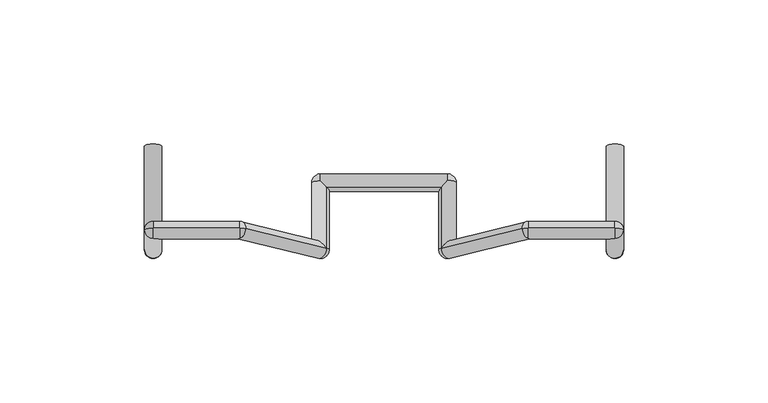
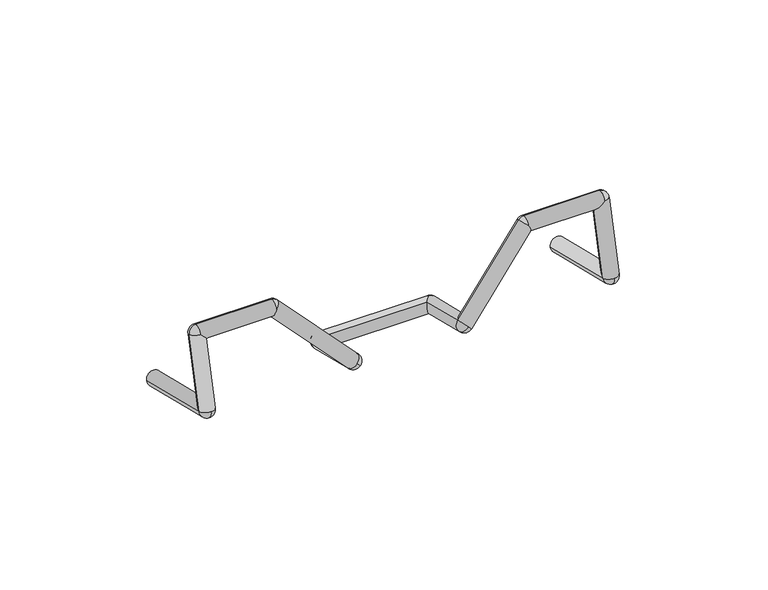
"""IFC4 building model written with IfcOpenShell, lengths in millimetres: furniture geometry, BK Library - Mag-Mag - 1440 - 1 Collum : BK Library - Mag-Mag - 1440 - 1 Collum."""

from ifc_helpers import new_model, si_unit, point, frame, origin, place, context, project, spatial, circle_curve, ellipse_curve, trimmed, source, transform, mapped, element, save
from ifc_brep_helpers import plane_surface, cylinder_surface, revolved_surface, advanced_brep


def furniture_b15f5bc2(model_context):
    return source(origin(), model_context, "Body", "AdvancedBrep", [
        advanced_brep(
        [(-79.9995394, -261.9406341, 782.0660528), (-79.9995394, -264.144767, 785.6912146), (-82.9995394, -261.2301197, 784.9807002), (-82.9995394, -254.3618134, 813.1556247), (-79.9995394, -253.651299, 816.070272), (-79.9995394, -251.4471661, 812.4451102), (-50.0045138, -253.651299, 816.070272), (-47.8464944, -253.8682486, 815.1803088), (-50.0045138, -251.4471661, 812.4451102), (-21.9995394, -264.144767, 785.6912146), (-19.9155642, -261.741221, 782.8840783), (-19.84152, -260.7365549, 787.0053844), (-24.9995394, -237.9129408, 779.2965847), (-21.9995394, -234.9982934, 778.5860702), (-21.9995394, -236.3098837, 776.7607992), (-21.9995394, -238.6234552, 776.3819373), (-24.1575588, -238.4065056, 777.2719005), (22.0004606, -234.9982934, 778.5860702), (25.0004606, -237.9129408, 779.2965847), (24.15848, -238.4065056, 777.2719005), (22.0004606, -238.6234552, 776.3819373), (22.0004606, -236.3098837, 776.7607992), (19.9164855, -261.741221, 782.8840783), (22.0004606, -264.144767, 785.6912146), (19.8424412, -260.7365549, 787.0053844), (47.8474157, -253.8682486, 815.1803088), (50.0054351, -253.651299, 816.070272), (50.0054351, -251.4471661, 812.4451102), (80.0004606, -253.651299, 816.070272), (83.0004606, -254.3618134, 813.1556247), (80.0004606, -251.4471661, 812.4451102), (80.0004606, -264.144767, 785.6912146), (80.0004606, -261.9406341, 782.0660528), (83.0004606, -261.2301197, 784.9807002), (-82.9995394, -225.2828022, 776.2176888), (-76.9995394, -225.2828022, 776.2176888), (-76.9995394, -261.2301197, 784.9807002), (-76.9995394, -255.0723279, 810.2409773), (-79.9995394, -257.2764608, 813.8661391), (-51.2779383, -255.0723279, 810.2409773), (-50.0045138, -257.2764608, 813.8661391), (-24.1575588, -261.7236845, 782.956016), (-19.84152, -239.5159978, 781.8323702), (19.8424412, -239.5159978, 781.8323702), (24.15848, -261.7236845, 782.956016), (51.2788596, -255.0723279, 810.2409773), (50.0054351, -257.2764608, 813.8661391), (77.0004606, -255.0723279, 810.2409773), (80.0004606, -257.2764608, 813.8661391), (77.0004606, -261.2301197, 784.9807002), (83.0004606, -225.2828022, 776.2176888), (77.0004606, -225.2828022, 776.2176888), (22.0004606, -237.2024264, 782.211232), (-21.9995394, -237.2024264, 782.211232)],
        [
            (0, 1, circle_curve(frame((-79.9995394, -261.2301197, 784.9807002), z_axis=(-1.0, 0.0, 0.0), x_axis=(0.0, 0.23683814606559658, 0.9715491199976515)), 3.0)),
            (1, 2, circle_curve(frame((-79.9995394, -261.2301197, 784.9807002), z_axis=(0.0, -0.23683814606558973, -0.9715491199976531), x_axis=(0.0, -0.9715491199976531, 0.23683814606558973)), 3.0)),
            (2, 0, circle_curve(frame((-79.9995394, -261.2301197, 784.9807002), z_axis=(0.0, -0.9715491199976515, 0.2368381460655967), x_axis=(0.0, -0.2368381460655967, -0.9715491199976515)), 3.0)),
            (3, 4, circle_curve(frame((-79.9995394, -254.3618134, 813.1556247), z_axis=(0.0, 0.971549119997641, -0.23683814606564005), x_axis=(1.0, 0.0, 0.0)), 3.0)),
            (4, 5, circle_curve(frame((-79.9995394, -254.3618134, 813.1556247), z_axis=(-1.0, 0.0, 0.0), x_axis=(0.0, 0.23683814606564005, 0.971549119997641)), 3.0)),
            (5, 3, circle_curve(frame((-79.9995394, -254.3618134, 813.1556247), z_axis=(0.0, 0.23683814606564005, 0.971549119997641), x_axis=(-1.0, 0.0, 0.0)), 3.0)),
            (6, 7, circle_curve(frame((-50.0045138, -254.3618134, 813.1556247), z_axis=(0.0, 0.971549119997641, -0.23683814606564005), x_axis=(0.0, -0.23683814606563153, -0.971549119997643)), 3.0)),
            (7, 8, circle_curve(frame((-50.0045138, -254.3618134, 813.1556247), z_axis=(-0.6946583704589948, 0.17036710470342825, 0.6988739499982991), x_axis=(0.7193398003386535, 0.16452160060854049, 0.6748947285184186)), 3.0)),
            (8, 6, circle_curve(frame((-50.0045138, -254.3618134, 813.1556247), z_axis=(1.0, 0.0, 0.0), x_axis=(0.0, 0.23683814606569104, 0.9715491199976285)), 3.0)),
            (9, 10, circle_curve(frame((-21.9995394, -261.2301197, 784.9807002), z_axis=(0.7193398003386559, 0.16452160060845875, 0.6748947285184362), x_axis=(0.0, 0.971549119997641, -0.23683814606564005)), 3.0)),
            (10, 11, circle_curve(frame((-21.9995394, -261.2301197, 784.9807002), z_axis=(0.0, -0.9715491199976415, 0.2368381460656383), x_axis=(0.6946583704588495, -0.17036710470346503, -0.6988739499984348)), 3.0)),
            (11, 9, circle_curve(frame((-21.9995394, -261.2301197, 784.9807002), z_axis=(0.6946583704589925, -0.17036710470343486, -0.6988739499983), x_axis=(0.0, -0.9715491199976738, 0.2368381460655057)), 3.0)),
            (12, 13, circle_curve(frame((-21.9995394, -237.9129408, 779.2965847), z_axis=(0.0, -0.23683814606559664, -0.9715491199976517), x_axis=(-1.0, 0.0, 0.0)), 3.0)),
            (13, 14, circle_curve(frame((-21.9995394, -237.9129408, 779.2965847), z_axis=(-1.0, 0.0, 0.0), x_axis=(0.0, 0.9715491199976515, -0.23683814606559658)), 3.0)),
            (14, 15, circle_curve(frame((-21.9995394, -237.9129408, 779.2965847), z_axis=(-1.0, 0.0, 0.0), x_axis=(0.0, 0.9715491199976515, -0.23683814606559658)), 3.0)),
            (15, 16, circle_curve(frame((-21.9995394, -237.9129408, 779.2965847), z_axis=(0.0, 0.9715491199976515, -0.23683814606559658), x_axis=(-1.0, 0.0, 0.0)), 3.0)),
            (16, 12, circle_curve(frame((-21.9995394, -237.9129408, 779.2965847), z_axis=(0.0, 0.9715491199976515, -0.23683814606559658), x_axis=(-1.0, 0.0, 0.0)), 3.0)),
            (17, 18, circle_curve(frame((22.0004606, -237.9129408, 779.2965847), z_axis=(0.0, -0.23683814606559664, -0.9715491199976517), x_axis=(0.0, -0.971549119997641, 0.23683814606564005)), 3.0)),
            (18, 19, circle_curve(frame((22.0004606, -237.9129408, 779.2965847), z_axis=(0.0, 0.971549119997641, -0.23683814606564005), x_axis=(1.0, 0.0, 0.0)), 3.0)),
            (19, 20, circle_curve(frame((22.0004606, -237.9129408, 779.2965847), z_axis=(0.0, 0.971549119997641, -0.23683814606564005), x_axis=(1.0, 0.0, 0.0)), 3.0)),
            (20, 21, circle_curve(frame((22.0004606, -237.9129408, 779.2965847), z_axis=(1.0, 0.0, 0.0), x_axis=(0.0, 0.9715491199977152, -0.23683814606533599)), 3.0)),
            (21, 17, circle_curve(frame((22.0004606, -237.9129408, 779.2965847), z_axis=(1.0, 0.0, 0.0), x_axis=(0.0, 0.9715491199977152, -0.23683814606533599)), 3.0)),
            (22, 23, circle_curve(frame((22.0004606, -261.2301197, 784.9807002), z_axis=(-0.7193398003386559, 0.16452160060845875, 0.6748947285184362), x_axis=(-0.6946583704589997, -0.17036710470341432, -0.6988739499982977)), 3.0)),
            (23, 24, circle_curve(frame((22.0004606, -261.2301197, 784.9807002), z_axis=(-0.6946583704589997, -0.17036710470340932, -0.6988739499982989), x_axis=(0.0, -0.9715491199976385, 0.23683814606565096)), 3.0)),
            (24, 22, circle_curve(frame((22.0004606, -261.2301197, 784.9807002), z_axis=(-3.5409316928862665e-11, -0.9715491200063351, 0.23683814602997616), x_axis=(-0.6946583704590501, -0.1703671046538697, -0.6988739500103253)), 3.0)),
            (25, 26, circle_curve(frame((50.0054351, -254.3618134, 813.1556247), z_axis=(0.0, 0.971549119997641, -0.23683814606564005), x_axis=(-0.7193398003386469, 0.16452160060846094, 0.6748947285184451)), 3.0)),
            (26, 27, circle_curve(frame((50.0054351, -254.3618134, 813.1556247), z_axis=(-1.0, 0.0, 0.0), x_axis=(0.0, 0.2368381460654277, 0.9715491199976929)), 3.0)),
            (27, 25, circle_curve(frame((50.0054351, -254.3618134, 813.1556247), z_axis=(0.6946583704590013, 0.17036710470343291, 0.6988739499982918), x_axis=(-0.7193398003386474, 0.16452160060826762, 0.6748947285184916)), 3.0)),
            (28, 29, circle_curve(frame((80.0004606, -254.3618134, 813.1556247), z_axis=(0.0, 0.971549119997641, -0.23683814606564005), x_axis=(0.0, 0.23683814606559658, 0.9715491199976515)), 3.0)),
            (29, 30, circle_curve(frame((80.0004606, -254.3618134, 813.1556247), z_axis=(0.0, 0.23683814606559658, 0.9715491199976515), x_axis=(1.0, 0.0, 0.0)), 3.0)),
            (30, 28, circle_curve(frame((80.0004606, -254.3618134, 813.1556247), z_axis=(1.0, 0.0, -2.6767436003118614e-12), x_axis=(2.7551294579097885e-12, 0.23683814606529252, 0.9715491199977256)), 3.0)),
            (31, 32, circle_curve(frame((80.0004606, -261.2301197, 784.9807002), z_axis=(1.0, 0.0, 0.0), x_axis=(0.0, -0.971549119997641, 0.23683814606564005)), 3.0)),
            (32, 33, circle_curve(frame((80.0004606, -261.2301197, 784.9807002), z_axis=(0.0, -0.9715491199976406, 0.23683814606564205), x_axis=(0.0, -0.23683814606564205, -0.9715491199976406)), 3.0)),
            (33, 31, circle_curve(frame((80.0004606, -261.2301197, 784.9807002), z_axis=(0.0, -0.2368381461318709, -0.9715491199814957), x_axis=(0.0, -0.9715491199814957, 0.2368381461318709)), 3.0)),
            (2, 34),
            (34, 35, circle_curve(frame((-79.9995394, -225.2828022, 776.2176888), z_axis=(0.0, -0.9715491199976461, 0.23683814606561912), x_axis=(-1.0, 0.0, 0.0)), 3.0)),
            (35, 36),
            (36, 0, circle_curve(frame((-79.9995394, -261.2301197, 784.9807002), z_axis=(0.0, 0.9715491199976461, -0.23683814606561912), x_axis=(-1.0, 0.0, 0.0)), 3.0)),
            (3, 2),
            (1, 36, circle_curve(frame((-79.9995394, -261.2301197, 784.9807002), z_axis=(0.0, 0.23683814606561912, 0.9715491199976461), x_axis=(-1.0, 0.0, 0.0)), 3.0)),
            (36, 37),
            (37, 38, ellipse_curve(frame((-79.9995394, -254.3618134, 813.1556247), z_axis=(-0.7071067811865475, -0.1674698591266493, -0.6869889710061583), x_axis=(0.7071067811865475, -0.1674698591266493, -0.6869889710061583)), 4.2426407, 3.0)),
            (38, 3, circle_curve(frame((-79.9995394, -254.3618134, 813.1556247), z_axis=(0.0, -0.23683814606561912, -0.9715491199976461), x_axis=(-1.0, 0.0, 0.0)), 3.0)),
            (6, 4),
            (4, 38, circle_curve(frame((-79.9995394, -254.3618134, 813.1556247), z_axis=(1.0, 0.0, 0.0), x_axis=(0.0, 0.23683814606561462, 0.9715491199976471)), 3.0)),
            (37, 39),
            (39, 40, ellipse_curve(frame((-50.0045138, -254.3618134, 813.1556247), z_axis=(-0.9205048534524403, 0.09254003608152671, 0.37961448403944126), x_axis=(-0.3907311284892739, -0.21801066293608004, -0.8943156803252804)), 3.2590811, 3.0)),
            (40, 6, circle_curve(frame((-50.0045138, -254.3618134, 813.1556247), z_axis=(-1.0, 0.0, 0.0), x_axis=(0.0, 0.23683814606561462, 0.9715491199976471)), 3.0)),
            (11, 7),
            (7, 40, circle_curve(frame((-50.0045138, -254.3618134, 813.1556247), z_axis=(0.694658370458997, -0.17036710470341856, -0.6988739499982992), x_axis=(0.7193398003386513, 0.16452160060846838, 0.6748947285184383)), 3.0)),
            (39, 41),
            (41, 9, circle_curve(frame((-21.9995394, -261.2301197, 784.9807002), z_axis=(-0.694658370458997, 0.17036710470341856, 0.6988739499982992), x_axis=(0.7193398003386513, 0.16452160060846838, 0.6748947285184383)), 3.0)),
            (42, 11),
            (10, 41, circle_curve(frame((-21.9995394, -261.2301197, 784.9807002), z_axis=(0.0, 0.9715491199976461, -0.23683814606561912), x_axis=(0.719339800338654, 0.16452160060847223, 0.6748947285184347)), 3.0)),
            (41, 16),
            (15, 42, ellipse_curve(frame((-21.9995394, -237.9129408, 779.2965847), z_axis=(-0.7071067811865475, -0.6869889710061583, 0.1674698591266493), x_axis=(0.7071067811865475, -0.6869889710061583, 0.1674698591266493)), 4.2426407, 3.0)),
            (43, 42),
            (14, 21),
            (20, 43, ellipse_curve(frame((22.0004606, -237.9129408, 779.2965847), z_axis=(-0.7071067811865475, 0.6869889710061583, -0.16746985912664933), x_axis=(-0.7071067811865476, -0.6869889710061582, 0.1674698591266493)), 4.2426407, 3.0)),
            (24, 43),
            (19, 44),
            (44, 22, circle_curve(frame((22.0004606, -261.2301197, 784.9807002), z_axis=(0.0, 0.9715491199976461, -0.23683814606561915), x_axis=(-0.7193398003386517, 0.16452160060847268, 0.6748947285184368)), 3.0)),
            (25, 24),
            (23, 44, circle_curve(frame((22.0004606, -261.2301197, 784.9807002), z_axis=(0.6946583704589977, 0.17036710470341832, 0.6988739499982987), x_axis=(-0.7193398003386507, 0.16452160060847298, 0.674894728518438)), 3.0)),
            (44, 45),
            (45, 46, ellipse_curve(frame((50.0054351, -254.3618134, 813.1556247), z_axis=(-0.9205048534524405, -0.09254003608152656, -0.37961448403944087), x_axis=(0.3907311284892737, -0.21801066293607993, -0.8943156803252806)), 3.2590811, 3.0)),
            (46, 25, circle_curve(frame((50.0054351, -254.3618134, 813.1556247), z_axis=(-0.6946583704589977, -0.17036710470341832, -0.6988739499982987), x_axis=(-0.7193398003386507, 0.16452160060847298, 0.674894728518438)), 3.0)),
            (28, 26),
            (26, 46, circle_curve(frame((50.0054351, -254.3618134, 813.1556247), z_axis=(1.0, 0.0, 0.0), x_axis=(0.0, 0.236838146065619, 0.9715491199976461)), 3.0)),
            (45, 47),
            (47, 48, ellipse_curve(frame((80.0004606, -254.3618134, 813.1556247), z_axis=(-0.7071067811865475, 0.1674698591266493, 0.6869889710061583), x_axis=(-0.7071067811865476, -0.16746985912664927, -0.6869889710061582)), 4.2426407, 3.0)),
            (48, 28, circle_curve(frame((80.0004606, -254.3618134, 813.1556247), z_axis=(-1.0, 0.0, 0.0), x_axis=(0.0, 0.236838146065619, 0.9715491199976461)), 3.0)),
            (33, 29),
            (29, 48, circle_curve(frame((80.0004606, -254.3618134, 813.1556247), z_axis=(0.0, -0.23683814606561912, -0.9715491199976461), x_axis=(1.0, 0.0, 0.0)), 3.0)),
            (47, 49),
            (49, 31, circle_curve(frame((80.0004606, -261.2301197, 784.9807002), z_axis=(0.0, 0.23683814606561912, 0.9715491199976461), x_axis=(1.0, 0.0, 0.0)), 3.0)),
            (50, 33),
            (32, 49, circle_curve(frame((80.0004606, -261.2301197, 784.9807002), z_axis=(0.0, 0.9715491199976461, -0.23683814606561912), x_axis=(1.0, 0.0, 0.0)), 3.0)),
            (49, 51),
            (51, 50, circle_curve(frame((80.0004606, -225.2828022, 776.2176888), z_axis=(0.0, -0.9715491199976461, 0.23683814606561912), x_axis=(1.0, 0.0, 0.0)), 3.0)),
            (51, 50, circle_curve(frame((80.0004606, -225.2828022, 776.2176888), z_axis=(0.0, 0.9715491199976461, -0.23683814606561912), x_axis=(1.0, 0.0, 0.0)), 3.0)),
            (49, 33, ellipse_curve(frame((80.0004606, -261.2301197, 784.9807002), z_axis=(0.0, 0.5195191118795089, -0.8544588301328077), x_axis=(0.0, -0.8544588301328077, -0.5195191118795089)), 4.2426407, 3.0)),
            (47, 30, ellipse_curve(frame((80.0004606, -254.3618134, 813.1556247), z_axis=(0.7071067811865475, -0.1674698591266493, -0.6869889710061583), x_axis=(0.7071067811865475, 0.1674698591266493, 0.6869889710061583)), 4.2426407, 3.0)),
            (45, 27, ellipse_curve(frame((50.0054351, -254.3618134, 813.1556247), z_axis=(0.9205048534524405, 0.09254003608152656, 0.37961448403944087), x_axis=(-0.39073112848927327, 0.21801066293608, 0.894315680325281)), 3.2590811, 3.0)),
            (44, 24, ellipse_curve(frame((22.0004606, -261.2301197, 784.9807002), z_axis=(0.49119764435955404, -0.5665212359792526, 0.6616483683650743), x_axis=(-0.4911976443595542, -0.8074567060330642, -0.3267086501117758)), 4.2426407, 3.0)),
            (18, 52, circle_curve(frame((22.0004606, -237.9129408, 779.2965847), z_axis=(0.0, -0.9715491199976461, 0.23683814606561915), x_axis=(-0.7193398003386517, 0.16452160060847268, 0.6748947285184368)), 3.0)),
            (52, 43, ellipse_curve(frame((22.0004606, -237.9129408, 779.2965847), z_axis=(0.7071067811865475, -0.6869889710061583, 0.16746985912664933), x_axis=(0.7071067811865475, 0.6869889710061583, -0.16746985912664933)), 4.2426407, 3.0)),
            (17, 52, circle_curve(frame((22.0004606, -237.9129408, 779.2965847), z_axis=(1.0, 0.0, 0.0), x_axis=(0.0, 0.9715491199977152, -0.23683814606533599)), 3.0)),
            (13, 53, circle_curve(frame((-21.9995394, -237.9129408, 779.2965847), z_axis=(1.0, 0.0, 0.0), x_axis=(0.0, -0.534352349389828, 0.8452618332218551)), 3.0)),
            (53, 42, ellipse_curve(frame((-21.9995394, -237.9129408, 779.2965847), z_axis=(0.7071067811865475, 0.6869889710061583, -0.1674698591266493), x_axis=(-0.7071067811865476, 0.6869889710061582, -0.16746985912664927)), 4.2426407, 3.0)),
            (12, 53, circle_curve(frame((-21.9995394, -237.9129408, 779.2965847), z_axis=(0.0, 0.9715491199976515, -0.23683814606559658), x_axis=(-1.0, 0.0, 0.0)), 3.0)),
            (41, 11, ellipse_curve(frame((-21.9995394, -261.2301197, 784.9807002), z_axis=(0.49119764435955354, 0.5665212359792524, -0.6616483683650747), x_axis=(0.4911976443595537, -0.8074567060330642, -0.32670865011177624)), 4.2426407, 3.0)),
            (39, 8, ellipse_curve(frame((-50.0045138, -254.3618134, 813.1556247), z_axis=(0.9205048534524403, -0.09254003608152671, -0.37961448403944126), x_axis=(0.3907311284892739, 0.21801066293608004, 0.8943156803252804)), 3.2590811, 3.0)),
            (37, 5, ellipse_curve(frame((-79.9995394, -254.3618134, 813.1556247), z_axis=(0.7071067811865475, 0.1674698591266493, 0.6869889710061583), x_axis=(-0.7071067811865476, 0.16746985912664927, 0.6869889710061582)), 4.2426407, 3.0)),
            (36, 2, ellipse_curve(frame((-79.9995394, -261.2301197, 784.9807002), z_axis=(0.0, -0.5195191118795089, 0.8544588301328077), x_axis=(0.0, -0.8544588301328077, -0.5195191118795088)), 4.2426407, 3.0)),
            (35, 34, circle_curve(frame((-79.9995394, -225.2828022, 776.2176888), z_axis=(0.0, -0.9715491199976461, 0.23683814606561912), x_axis=(-1.0, 0.0, 0.0)), 3.0)),
        ],
        [
            revolved_surface(trimmed(ellipse_curve(frame((-79.9995394, -261.2301197, 784.9807002), z_axis=(0.0, -0.9715491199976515, 0.23683814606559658), x_axis=(0.0, 0.23683814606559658, 0.9715491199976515)), 3.0, 3.0), [point((-79.9995394, -260.5196052, 787.8953475))], [point((-82.9995394, -261.2301197, 784.9807002))], True, "CARTESIAN"), (-79.9995394, -261.2301197, 784.9807002), (-1.0, 0.0, 0.0)),
            revolved_surface(trimmed(ellipse_curve(frame((-79.9995394, -254.3618134, 813.1556247), z_axis=(0.0, 0.23683814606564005, 0.971549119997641), x_axis=(1.0, 0.0, 0.0)), 3.0, 3.0), [point((-76.9995394, -254.3618134, 813.1556247))], [point((-79.9995394, -251.4471661, 812.4451102))], True, "CARTESIAN"), (-79.9995394, -254.3618134, 813.1556247), (0.0, 0.971549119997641, -0.23683814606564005)),
            revolved_surface(trimmed(ellipse_curve(frame((-50.0045138, -254.3618134, 813.1556247), z_axis=(1.0, 0.0, 0.0), x_axis=(0.0, -0.23683814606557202, -0.9715491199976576)), 3.0, 3.0), [point((-50.0045138, -255.0723279, 810.2409773))], [point((-50.0045138, -251.4471661, 812.4451102))], True, "CARTESIAN"), (-50.0045138, -254.3618134, 813.1556247), (0.0, 0.971549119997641, -0.23683814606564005)),
            revolved_surface(trimmed(ellipse_curve(frame((-21.9995394, -261.2301197, 784.9807002), z_axis=(0.6946583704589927, -0.1703671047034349, -0.6988739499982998), x_axis=(0.0, 0.9715491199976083, -0.23683814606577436)), 3.0, 3.0), [point((-21.9995394, -258.3154723, 784.2701857))], [point((-19.84152, -260.7365549, 787.0053844))], True, "CARTESIAN"), (-21.9995394, -261.2301197, 784.9807002), (0.7193398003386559, 0.16452160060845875, 0.6748947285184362)),
            revolved_surface(trimmed(ellipse_curve(frame((-21.9995394, -237.9129408, 779.2965847), z_axis=(0.0, -0.9715491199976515, 0.23683814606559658), x_axis=(-1.0, 0.0, 0.0)), 3.0, 3.0), [point((-24.9995394, -237.9129408, 779.2965847))], [point((-21.9995394, -238.6234552, 776.3819373))], True, "CARTESIAN"), (-21.9995394, -237.9129408, 779.2965847), (0.0, -0.23683814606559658, -0.9715491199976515)),
            revolved_surface(trimmed(ellipse_curve(frame((22.0004606, -237.9129408, 779.2965847), z_axis=(1.0, 0.0, 0.0), x_axis=(0.0, -0.9715491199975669, 0.2368381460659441)), 3.0, 3.0), [point((22.0004606, -240.8275882, 780.0070991))], [point((22.0004606, -238.6234552, 776.3819373))], True, "CARTESIAN"), (22.0004606, -237.9129408, 779.2965847), (0.0, -0.23683814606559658, -0.9715491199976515)),
            revolved_surface(trimmed(ellipse_curve(frame((22.0004606, -261.2301197, 784.9807002), z_axis=(0.0, 0.9715491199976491, -0.23683814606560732), x_axis=(-0.6946583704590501, -0.17036710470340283, -0.6988739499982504)), 3.0, 3.0), [point((19.9164855, -261.741221, 782.8840783))], [point((19.8424412, -260.7365549, 787.0053844))], True, "CARTESIAN"), (22.0004606, -261.2301197, 784.9807002), (-0.7193398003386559, 0.16452160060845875, 0.6748947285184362)),
            revolved_surface(trimmed(ellipse_curve(frame((50.0054351, -254.3618134, 813.1556247), z_axis=(-0.6946583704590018, -0.17036710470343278, -0.6988739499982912), x_axis=(-0.7193398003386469, 0.16452160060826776, 0.6748947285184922)), 3.0, 3.0), [point((47.8474157, -253.8682486, 815.1803088))], [point((50.0054351, -251.4471661, 812.4451102))], True, "CARTESIAN"), (50.0054351, -254.3618134, 813.1556247), (0.0, 0.971549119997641, -0.23683814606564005)),
            revolved_surface(trimmed(ellipse_curve(frame((80.0004606, -254.3618134, 813.1556247), z_axis=(-1.0, 0.0, 0.0), x_axis=(0.0, 0.23683814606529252, 0.9715491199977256)), 3.0, 3.0), [point((80.0004606, -253.651299, 816.070272))], [point((80.0004606, -251.4471661, 812.4451102))], True, "CARTESIAN"), (80.0004606, -254.3618134, 813.1556247), (0.0, 0.971549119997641, -0.23683814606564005)),
            revolved_surface(trimmed(ellipse_curve(frame((80.0004606, -261.2301197, 784.9807002), z_axis=(0.0, 0.23683814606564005, 0.971549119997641), x_axis=(0.0, -0.971549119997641, 0.23683814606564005)), 3.0, 3.0), [point((80.0004606, -264.144767, 785.6912146))], [point((83.0004606, -261.2301197, 784.9807002))], True, "CARTESIAN"), (80.0004606, -261.2301197, 784.9807002), (1.0, 0.0, 0.0)),
            cylinder_surface(frame((-79.9995394, -225.2828022, 776.2176888), z_axis=(0.0, 0.9715491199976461, -0.23683814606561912), x_axis=(-1.0, 0.0, 0.0)), 3.0),
            cylinder_surface(frame((-79.9995394, -261.2301197, 784.9807002), z_axis=(0.0, -0.23683814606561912, -0.9715491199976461), x_axis=(-1.0, 0.0, 0.0)), 3.0),
            cylinder_surface(frame((-79.9995394, -254.3618134, 813.1556247), z_axis=(-1.0, 0.0, 0.0), x_axis=(0.0, 0.23683814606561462, 0.9715491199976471)), 3.0),
            cylinder_surface(frame((-50.0045138, -254.3618134, 813.1556247), z_axis=(-0.694658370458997, 0.17036710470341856, 0.6988739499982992), x_axis=(0.7193398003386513, 0.16452160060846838, 0.6748947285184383)), 3.0),
            cylinder_surface(frame((-21.9995394, -261.2301197, 784.9807002), z_axis=(0.0, -0.9715491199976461, 0.23683814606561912), x_axis=(0.719339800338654, 0.16452160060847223, 0.6748947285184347)), 3.0),
            cylinder_surface(frame((-21.9995394, -237.9129408, 779.2965847), z_axis=(-1.0, 0.0, 0.0), x_axis=(0.0, -0.534352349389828, 0.8452618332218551)), 3.0),
            cylinder_surface(frame((22.0004606, -237.9129408, 779.2965847), z_axis=(0.0, 0.9715491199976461, -0.23683814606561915), x_axis=(-0.7193398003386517, 0.16452160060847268, 0.6748947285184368)), 3.0),
            cylinder_surface(frame((22.0004606, -261.2301197, 784.9807002), z_axis=(-0.6946583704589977, -0.17036710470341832, -0.6988739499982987), x_axis=(-0.7193398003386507, 0.16452160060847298, 0.674894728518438)), 3.0),
            cylinder_surface(frame((50.0054351, -254.3618134, 813.1556247), z_axis=(-1.0, 0.0, 0.0), x_axis=(0.0, 0.236838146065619, 0.9715491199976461)), 3.0),
            cylinder_surface(frame((80.0004606, -254.3618134, 813.1556247), z_axis=(0.0, 0.23683814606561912, 0.9715491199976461), x_axis=(1.0, 0.0, 0.0)), 3.0),
            cylinder_surface(frame((80.0004606, -261.2301197, 784.9807002), z_axis=(0.0, -0.9715491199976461, 0.23683814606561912), x_axis=(1.0, 0.0, 0.0)), 3.0),
            plane_surface(frame((80.0004606, -225.2828022, 776.2176888), z_axis=(0.0, 0.9715491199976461, -0.23683814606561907), x_axis=(0.0, 0.23683814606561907, 0.9715491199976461))),
            revolved_surface(trimmed(ellipse_curve(frame((80.0004606, -261.2301197, 784.9807002), z_axis=(0.0, 0.23683814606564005, 0.971549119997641), x_axis=(0.0, -0.971549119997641, 0.23683814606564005)), 3.0, 3.0), [point((77.0004606, -261.2301197, 784.9807002))], [point((80.0004606, -264.144767, 785.6912146))], True, "CARTESIAN"), (80.0004606, -261.2301197, 784.9807002), (1.0, 0.0, 0.0)),
            revolved_surface(trimmed(ellipse_curve(frame((80.0004606, -254.3618134, 813.1556247), z_axis=(-1.0, 0.0, 0.0), x_axis=(0.0, 0.23683814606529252, 0.9715491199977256)), 3.0, 3.0), [point((80.0004606, -257.2764608, 813.8661391))], [point((80.0004606, -253.651299, 816.070272))], True, "CARTESIAN"), (80.0004606, -254.3618134, 813.1556247), (0.0, 0.971549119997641, -0.23683814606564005)),
            revolved_surface(trimmed(ellipse_curve(frame((50.0054351, -254.3618134, 813.1556247), z_axis=(-0.6946583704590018, -0.17036710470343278, -0.6988739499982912), x_axis=(-0.7193398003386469, 0.16452160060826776, 0.6748947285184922)), 3.0, 3.0), [point((50.0054351, -257.2764608, 813.8661391))], [point((47.8474157, -253.8682486, 815.1803088))], True, "CARTESIAN"), (50.0054351, -254.3618134, 813.1556247), (0.0, 0.971549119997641, -0.23683814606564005)),
            revolved_surface(trimmed(ellipse_curve(frame((22.0004606, -261.2301197, 784.9807002), z_axis=(0.0, 0.9715491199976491, -0.23683814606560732), x_axis=(-0.6946583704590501, -0.17036710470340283, -0.6988739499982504)), 3.0, 3.0), [point((24.15848, -261.7236845, 782.956016))], [point((19.9164855, -261.741221, 782.8840783))], True, "CARTESIAN"), (22.0004606, -261.2301197, 784.9807002), (-0.7193398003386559, 0.16452160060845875, 0.6748947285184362)),
            revolved_surface(trimmed(ellipse_curve(frame((22.0004606, -237.9129408, 779.2965847), z_axis=(1.0, 0.0, 0.0), x_axis=(0.0, -0.9715491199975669, 0.2368381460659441)), 3.0, 3.0), [point((22.0004606, -237.2024264, 782.211232))], [point((22.0004606, -240.8275882, 780.0070991))], True, "CARTESIAN"), (22.0004606, -237.9129408, 779.2965847), (0.0, -0.23683814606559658, -0.9715491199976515)),
            revolved_surface(trimmed(ellipse_curve(frame((-21.9995394, -237.9129408, 779.2965847), z_axis=(0.0, -0.9715491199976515, 0.23683814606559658), x_axis=(-1.0, 0.0, 0.0)), 3.0, 3.0), [point((-21.9995394, -237.2024264, 782.211232))], [point((-24.9995394, -237.9129408, 779.2965847))], True, "CARTESIAN"), (-21.9995394, -237.9129408, 779.2965847), (0.0, -0.23683814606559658, -0.9715491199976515)),
            revolved_surface(trimmed(ellipse_curve(frame((-21.9995394, -261.2301197, 784.9807002), z_axis=(0.6946583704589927, -0.1703671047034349, -0.6988739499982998), x_axis=(0.0, 0.9715491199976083, -0.23683814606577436)), 3.0, 3.0), [point((-24.1575588, -261.7236845, 782.956016))], [point((-21.9995394, -258.3154723, 784.2701857))], True, "CARTESIAN"), (-21.9995394, -261.2301197, 784.9807002), (0.7193398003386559, 0.16452160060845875, 0.6748947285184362)),
            revolved_surface(trimmed(ellipse_curve(frame((-50.0045138, -254.3618134, 813.1556247), z_axis=(1.0, 0.0, 0.0), x_axis=(0.0, -0.23683814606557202, -0.9715491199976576)), 3.0, 3.0), [point((-50.0045138, -257.2764608, 813.8661391))], [point((-50.0045138, -255.0723279, 810.2409773))], True, "CARTESIAN"), (-50.0045138, -254.3618134, 813.1556247), (0.0, 0.971549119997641, -0.23683814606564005)),
            revolved_surface(trimmed(ellipse_curve(frame((-79.9995394, -254.3618134, 813.1556247), z_axis=(0.0, 0.23683814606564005, 0.971549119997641), x_axis=(1.0, 0.0, 0.0)), 3.0, 3.0), [point((-79.9995394, -257.2764608, 813.8661391))], [point((-76.9995394, -254.3618134, 813.1556247))], True, "CARTESIAN"), (-79.9995394, -254.3618134, 813.1556247), (0.0, 0.971549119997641, -0.23683814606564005)),
            revolved_surface(trimmed(ellipse_curve(frame((-79.9995394, -261.2301197, 784.9807002), z_axis=(0.0, -0.9715491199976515, 0.23683814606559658), x_axis=(0.0, 0.23683814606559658, 0.9715491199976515)), 3.0, 3.0), [point((-76.9995394, -261.2301197, 784.9807002))], [point((-79.9995394, -260.5196052, 787.8953475))], True, "CARTESIAN"), (-79.9995394, -261.2301197, 784.9807002), (-1.0, 0.0, 0.0)),
            plane_surface(frame((-79.9995394, -225.2828022, 776.2176888), z_axis=(0.0, 0.9715491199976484, -0.23683814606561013), x_axis=(0.0, 0.23683814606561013, 0.9715491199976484))),
        ],
        [
            (0, [[1, 2, 3]]),
            (1, [[4, 5, 6]]),
            (2, [[7, 8, 9]]),
            (3, [[10, 11, 12]]),
            (4, [[13, 14, 15, 16, 17]]),
            (5, [[18, 19, 20, 21, 22]]),
            (6, [[23, 24, 25]]),
            (7, [[26, 27, 28]]),
            (8, [[29, 30, 31]]),
            (9, [[32, 33, 34]]),
            (10, [[35, 36, 37, 38, -3]]),
            (11, [[39, -2, 40, 41, 42, 43]]),
            (12, [[44, 45, -42, 46, 47, 48]]),
            (13, [[49, 50, -47, 51, 52, -12]]),
            (14, [[53, -11, 54, 55, -16, 56]]),
            (15, [[57, -56, -15, 58, -21, 59]]),
            (16, [[60, -59, -20, 61, 62, -25]]),
            (17, [[63, -24, 64, 65, 66, 67]]),
            (18, [[68, 69, -66, 70, 71, 72]]),
            (19, [[73, 74, -71, 75, 76, -34]]),
            (20, [[77, -33, 78, 79, 80]]),
            (21, [[-80, 81]]),
            (22, [[-32, -76, -78]]),
            (20, [[-77, -81, -79, 82]]),
            (19, [[-73, -82, -75, 83, -30]]),
            (23, [[-29, -72, -74]]),
            (18, [[-68, -31, -83, -70, 84, -27]]),
            (24, [[-26, -67, -69]]),
            (17, [[-63, -28, -84, -65, 85]]),
            (25, [[-23, -62, -64]]),
            (16, [[-60, -85, -61, -19, 86, 87]]),
            (26, [[-18, 88, -86]]),
            (15, [[-57, -87, -88, -22, -58, -14, 89, 90]]),
            (27, [[-13, 91, -89]]),
            (14, [[-53, -90, -91, -17, -55, 92]]),
            (28, [[-10, -52, -54]]),
            (13, [[-49, -92, -51, 93, -8]]),
            (29, [[-7, -48, -50]]),
            (12, [[-44, -9, -93, -46, 94, -5]]),
            (30, [[-4, -43, -45]]),
            (11, [[-39, -6, -94, -41, 95]]),
            (31, [[-1, -38, -40]]),
            (10, [[-35, -95, -37, 96]]),
            (32, [[-36, -96]]),
        ],
    ),
    ])


if __name__ == "__main__":
    model = new_model("IFC4")
    model_context = context("Model", 3, world=origin())
    ifc_project = project(units=[si_unit("LENGTHUNIT", "METRE", prefix="MILLI")], contexts=[model_context])
    site = spatial("IfcSite", under=ifc_project)
    building = spatial("IfcBuilding", under=site)
    placement = place(None, origin())
    furniture_shape = furniture_b15f5bc2(model_context)
    element("IfcFurniture", 1, ObjectType="BK Library - Mag-Mag - 1440 - 1 Collum : BK Library - Mag-Mag - 1440 - 1 Collum", at=placement, inside=building, context=model_context, shape_type="MappedRepresentation", body=[
        mapped(furniture_shape, transform((0.0, 0.0, 0.0), x_axis=(1.0, 0.0, 0.0), y_axis=(0.0, 1.0, 0.0), z_axis=(0.0, 0.0, 1.0))),
    ])
    save(model, "model.ifc")
